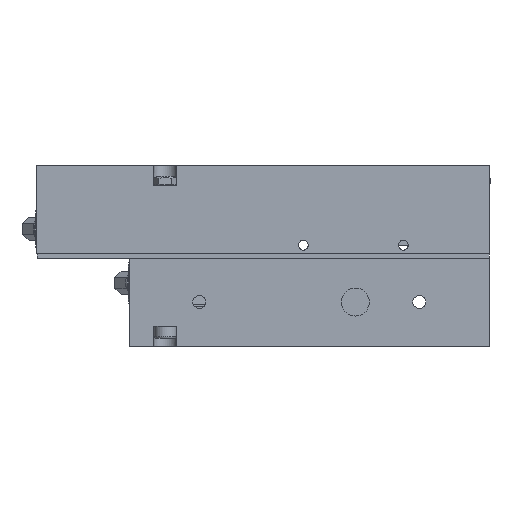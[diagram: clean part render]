
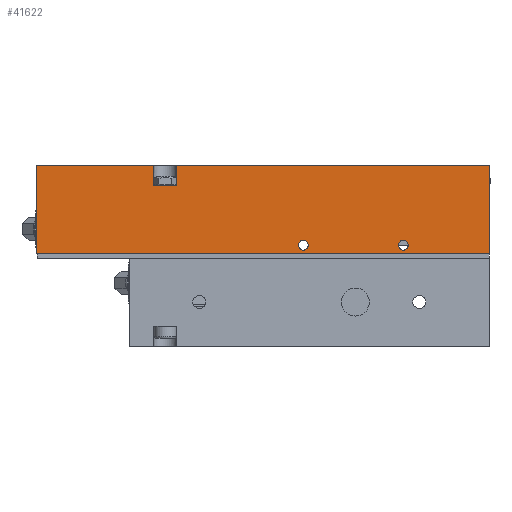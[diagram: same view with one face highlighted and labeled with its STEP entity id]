
A CAD part, left-side view. The second image highlights one B-rep face of the part: STEP entity #41622.
In plain terms, the highlighted planar face has unit normal (-1, 0, 0) as drawn and (0, -1, 0) by its records, which use the part's own axes.
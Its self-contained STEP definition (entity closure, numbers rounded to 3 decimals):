
#26987=CARTESIAN_POINT('',(113.1,0.,0.0));
#26988=VERTEX_POINT('',#26987);
#26995=CARTESIAN_POINT('',(83.85,0.,0.0));
#26996=VERTEX_POINT('',#26995);
#26997=CARTESIAN_POINT('',(113.1,0.,0.0));
#26998=DIRECTION('',(-1.0,0.0,0.0));
#26999=VECTOR('',#26998,29.25);
#27000=LINE('',#26997,#26999);
#27001=EDGE_CURVE('',#26988,#26996,#27000,.T.);
#27020=CARTESIAN_POINT('',(78.189,0.,0.0));
#27021=VERTEX_POINT('',#27020);
#27028=CARTESIAN_POINT('',(0.0,0.0,0.0));
#27029=VERTEX_POINT('',#27028);
#27030=CARTESIAN_POINT('',(78.189,0.,0.0));
#27031=DIRECTION('',(-1.0,0.0,0.0));
#27032=VECTOR('',#27031,78.189);
#27033=LINE('',#27030,#27032);
#27034=EDGE_CURVE('',#27021,#27029,#27033,.T.);
#41347=CARTESIAN_POINT('',(83.85,0.,5.0));
#41348=VERTEX_POINT('',#41347);
#41355=CARTESIAN_POINT('',(78.189,0.,5.0));
#41356=VERTEX_POINT('',#41355);
#41357=CARTESIAN_POINT('',(78.189,0.,5.0));
#41358=DIRECTION('',(1.0,0.0,0.0));
#41359=VECTOR('',#41358,5.661);
#41360=LINE('',#41357,#41359);
#41361=EDGE_CURVE('',#41356,#41348,#41360,.T.);
#41404=CARTESIAN_POINT('',(78.189,0.,0.0));
#41405=DIRECTION('',(0.0,0.0,1.0));
#41406=VECTOR('',#41405,5.0);
#41407=LINE('',#41404,#41406);
#41408=EDGE_CURVE('',#27021,#41356,#41407,.T.);
#41427=CARTESIAN_POINT('',(83.85,0.,5.0));
#41428=DIRECTION('',(0.0,0.0,-1.0));
#41429=VECTOR('',#41428,5.0);
#41430=LINE('',#41427,#41429);
#41431=EDGE_CURVE('',#41348,#26996,#41430,.T.);
#41566=CARTESIAN_POINT('',(113.1,0.,0.0));
#41567=DIRECTION('',(0.0,-1.0,0.0));
#41568=DIRECTION('',(0.0,0.0,-1.0));
#41569=AXIS2_PLACEMENT_3D('',#41566,#41567,#41568);
#41570=PLANE('',#41569);
#41571=ORIENTED_EDGE('',*,*,#41408,.T.);
#41572=ORIENTED_EDGE('',*,*,#41361,.T.);
#41573=ORIENTED_EDGE('',*,*,#41431,.T.);
#41574=ORIENTED_EDGE('',*,*,#27001,.F.);
#41575=CARTESIAN_POINT('',(113.1,0.,22.0));
#41576=VERTEX_POINT('',#41575);
#41577=CARTESIAN_POINT('',(113.1,0.,0.0));
#41578=DIRECTION('',(0.0,0.0,1.0));
#41579=VECTOR('',#41578,22.0);
#41580=LINE('',#41577,#41579);
#41581=EDGE_CURVE('',#26988,#41576,#41580,.T.);
#41582=ORIENTED_EDGE('',*,*,#41581,.T.);
#41583=CARTESIAN_POINT('',(0.0,0.0,22.0));
#41584=VERTEX_POINT('',#41583);
#41585=CARTESIAN_POINT('',(113.1,0.,22.0));
#41586=DIRECTION('',(-1.0,0.0,0.0));
#41587=VECTOR('',#41586,113.1);
#41588=LINE('',#41585,#41587);
#41589=EDGE_CURVE('',#41576,#41584,#41588,.T.);
#41590=ORIENTED_EDGE('',*,*,#41589,.T.);
#41591=CARTESIAN_POINT('',(0.0,0.0,0.0));
#41592=DIRECTION('',(0.0,0.0,1.0));
#41593=VECTOR('',#41592,22.0);
#41594=LINE('',#41591,#41593);
#41595=EDGE_CURVE('',#27029,#41584,#41594,.T.);
#41596=ORIENTED_EDGE('',*,*,#41595,.F.);
#41597=ORIENTED_EDGE('',*,*,#27034,.F.);
#41598=EDGE_LOOP('',(#41571,#41572,#41573,#41574,#41582,#41590,#41596,#41597));
#41599=FACE_OUTER_BOUND('',#41598,.T.);
#41600=CARTESIAN_POINT('',(47.73,0.,19.8));
#41601=VERTEX_POINT('',#41600);
#41602=CARTESIAN_POINT('',(46.5,0.,19.8));
#41603=DIRECTION('',(0.0,1.0,0.0));
#41604=DIRECTION('',(1.0,0.0,0.0));
#41605=AXIS2_PLACEMENT_3D('',#41602,#41603,#41604);
#41606=CIRCLE('',#41605,1.23);
#41607=EDGE_CURVE('',#41601,#41601,#41606,.T.);
#41608=ORIENTED_EDGE('',*,*,#41607,.T.);
#41609=EDGE_LOOP('',(#41608));
#41610=FACE_BOUND('',#41609,.T.);
#41611=CARTESIAN_POINT('',(22.729,0.,19.8));
#41612=VERTEX_POINT('',#41611);
#41613=CARTESIAN_POINT('',(21.5,0.0,19.8));
#41614=DIRECTION('',(0.0,1.0,0.0));
#41615=DIRECTION('',(1.0,0.0,0.0));
#41616=AXIS2_PLACEMENT_3D('',#41613,#41614,#41615);
#41617=CIRCLE('',#41616,1.23);
#41618=EDGE_CURVE('',#41612,#41612,#41617,.T.);
#41619=ORIENTED_EDGE('',*,*,#41618,.T.);
#41620=EDGE_LOOP('',(#41619));
#41621=FACE_BOUND('',#41620,.T.);
#41622=ADVANCED_FACE('',(#41599,#41610,#41621),#41570,.T.);
